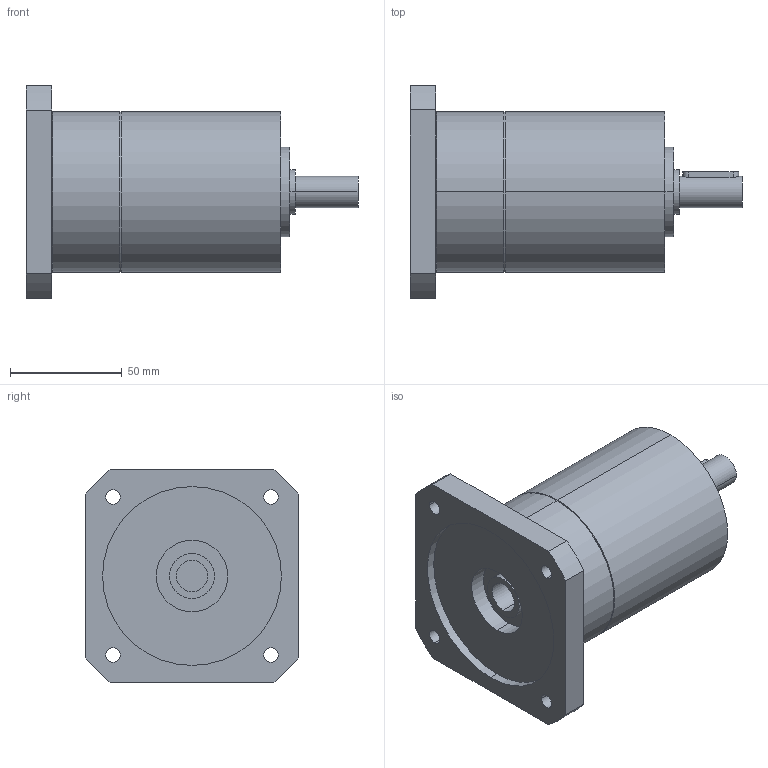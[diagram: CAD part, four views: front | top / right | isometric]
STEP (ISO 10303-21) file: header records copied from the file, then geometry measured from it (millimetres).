
FILE_DESCRIPTION(('CoCreate Modeling STEP Export'),'2;1');
FILE_NAME('GPT75_ig-9-12-16-20-25-28-35-40-50-70-100_14_B14T_14_P07.stp','2014-08-27T13:16:58',(''),(''),'CoCreate Modeling STEP processor for AP214 (Solid Model)','CoCreate Modeling 16.00C 25-Feb-2009 (C) Parametric Technology GmbH','');
FILE_SCHEMA(('AUTOMOTIVE_DESIGN { 1 0 10303 214 1 1 1 1 }'));
Length unit declared in the file: millimetre
Products named in the file (2): GPT75_ig-9-12-16-20-25-28-35-40-50-70-100_14_B14T_14_P07
Assembly tree (1 placements, depth 2):
  GPT75_ig-9-12-16-20-25-28-35-40-50-70-100_14_B14T_14_P07
    GPT75_ig-9-12-16-20-25-28-35-40-50-70-100_14_B14T_14_P07
Bounding box: 148.5 x 95 x 95 mm (x, y, z)
Volume: 496454.8 mm3; surface area: 52100.3 mm2
Topology: 1 solids, 1 shells, 69 faces, 162 edges, 109 vertices
Faces by surface type: cylinder 42, plane 23, cone 4
Entity records: 2141 total; most frequent: CARTESIAN_POINT 660, ORIENTED_EDGE 324, DIRECTION 262, EDGE_CURVE 162, VERTEX_POINT 109, AXIS2_PLACEMENT_3D 99, EDGE_LOOP 91, FACE_OUTER_BOUND 69
